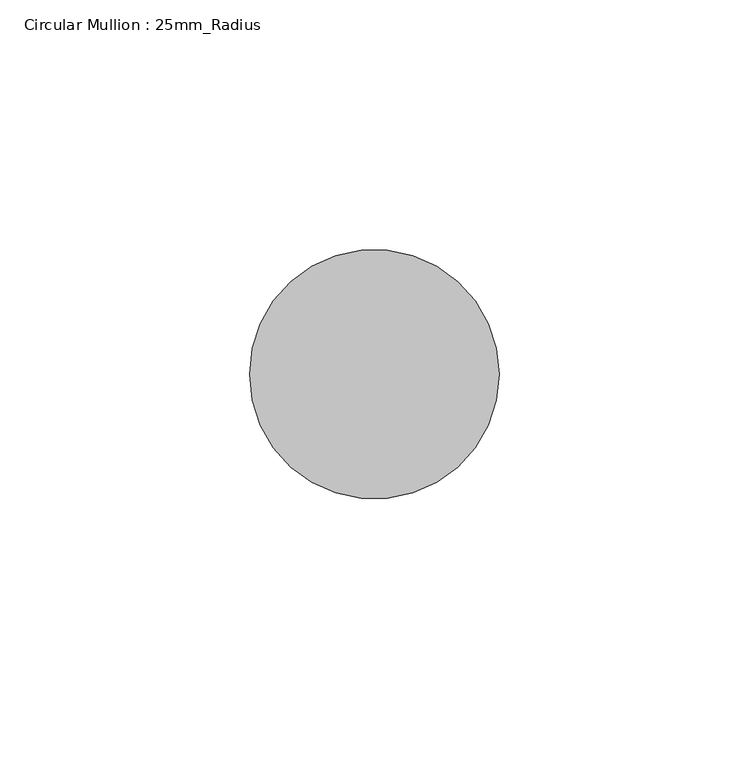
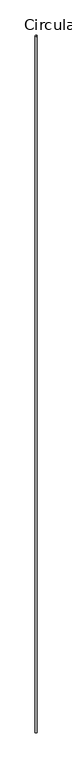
"""IFC4 building model written with IfcOpenShell, lengths in millimetres: member geometry, Circular Mullion : 25mm_Radius."""

import ifcopenshell
import ifcopenshell.guid

model = None  # the IFC model being written
_history = None  # IfcOwnerHistory: only IFC2X3 demands one
_inside = {}  # id of a spatial element -> (the spatial element, [elements in it])
_under = {}  # id of a project, library or spatial element -> (it, [spatial elements below it])
_declared = {}  # id of a project -> (the project, [libraries it declares])
_typed = {}  # id of a type object -> (the type object, [elements of that type])
_made_of = {}  # id of a material, layer set ... -> (it, [elements and type objects made of it])


def new_model(schema):
    """Start an empty IFC model of exactly this schema.

    Asked for "IFC4X3", IfcOpenShell would pick the latest addendum, in which some entities
    have other attributes; the version numbers below select the first issue.
    IFC2X3 requires an IfcOwnerHistory on every rooted entity: one is made here for all.
    """
    global model, _history
    if schema == "IFC4X3":
        model = ifcopenshell.file(schema_version=(4, 3, 0, 0))
    else:
        model = ifcopenshell.file(schema=schema)
    _inside.clear()
    _under.clear()
    _declared.clear()
    _typed.clear()
    _made_of.clear()
    _history = None
    if model.schema == "IFC2X3":
        org = make("IfcOrganization", Name="unknown")
        user = make(
            "IfcPersonAndOrganization",
            ThePerson=make("IfcPerson", FamilyName="unknown"),
            TheOrganization=org,
        )
        app = make(
            "IfcApplication",
            ApplicationDeveloper=org,
            Version="unknown",
            ApplicationFullName="unknown",
            ApplicationIdentifier="unknown",
        )
        _history = make(
            "IfcOwnerHistory",
            OwningUser=user,
            OwningApplication=app,
            ChangeAction="ADDED",
            CreationDate=0,
        )
    return model


def make(cls, **values):
    """One entity of the class cls with the attributes given. An attribute that is None is left unset."""
    return model.create_entity(
        cls, **{name: value for name, value in values.items() if value is not None}
    )


def rooted(cls, **values):
    """An entity with a GlobalId (a new one), such as an element, a storey or a relation."""
    return make(cls, GlobalId=ifcopenshell.guid.new(), OwnerHistory=_history, **values)


def si_unit(unit_type, name, prefix=None):
    """IfcSIUnit, for example si_unit("LENGTHUNIT", "METRE", prefix="MILLI")."""
    return make("IfcSIUnit", UnitType=unit_type, Prefix=prefix, Name=name)


def assignment(units):
    """IfcUnitAssignment: the units of a project."""
    return None if units is None else make("IfcUnitAssignment", Units=units)


def point(xyz):
    """IfcCartesianPoint."""
    return None if xyz is None else make("IfcCartesianPoint", Coordinates=xyz)


def direction(xyz):
    """IfcDirection."""
    return None if xyz is None else make("IfcDirection", DirectionRatios=xyz)


def frame(location, z_axis=None, x_axis=None):
    """IfcAxis2Placement3D, a coordinate frame: its origin and axes. An axis left out is left unset."""
    return make(
        "IfcAxis2Placement3D",
        Location=point(location),
        Axis=direction(z_axis),
        RefDirection=direction(x_axis),
    )


def origin():
    """The frame at (0, 0, 0) with its axes left unset."""
    return frame((0.0, 0.0, 0.0))


def place(relative_to, where):
    """IfcLocalPlacement: puts the frame where relative to a parent placement (None: the world)."""
    return make(
        "IfcLocalPlacement", PlacementRelTo=relative_to, RelativePlacement=where
    )


def context(
    kind, dimensions, precision=None, world=None, true_north=None, identifier=None
):
    """IfcGeometricRepresentationContext, for example the 3D "Model" context."""
    return make(
        "IfcGeometricRepresentationContext",
        ContextIdentifier=identifier,
        ContextType=kind,
        CoordinateSpaceDimension=dimensions,
        Precision=precision,
        WorldCoordinateSystem=world,
        TrueNorth=true_north,
    )


def project(units=None, contexts=None):
    """IfcProject with its units and contexts."""
    return rooted(
        "IfcProject",
        Name="project",
        RepresentationContexts=contexts,
        UnitsInContext=assignment(units),
    )


def spatial(cls, under=None, at=None, **own):
    """A site, building, storey or space (cls), placed at a placement, below another one or the project."""
    s = rooted(cls, ObjectPlacement=at, **own)
    if under is not None:
        _under.setdefault(under.id(), (under, []))[1].append(s)
    return s


def circle_curve(where, radius):
    """IfcCircle in the frame where."""
    return make("IfcCircle", Position=where, Radius=radius)


def ellipse_curve(where, semi_axis1, semi_axis2):
    """IfcEllipse in the frame where."""
    return make(
        "IfcEllipse", Position=where, SemiAxis1=semi_axis1, SemiAxis2=semi_axis2
    )


def shape(context_of_items, identifier, shape_type, items):
    """IfcShapeRepresentation: the items that make up one representation, for example the "Body"."""
    return make(
        "IfcShapeRepresentation",
        ContextOfItems=context_of_items,
        RepresentationIdentifier=identifier,
        RepresentationType=shape_type,
        Items=items,
    )


def source(mapping_origin, context_of_items, identifier, shape_type, items):
    """IfcRepresentationMap: a shape defined once, which mapped items show again and again."""
    return make(
        "IfcRepresentationMap",
        MappingOrigin=mapping_origin,
        MappedRepresentation=shape(context_of_items, identifier, shape_type, items),
    )


def transform(
    local_origin,
    x_axis=None,
    y_axis=None,
    z_axis=None,
    scale=None,
    scale2=None,
    scale3=None,
    uniform=True,
):
    """IfcCartesianTransformationOperator3D, or its non-uniform kind. x_axis, y_axis, z_axis: its Axis1, 2, 3."""
    if uniform:
        return make(
            "IfcCartesianTransformationOperator3D",
            Axis1=direction(x_axis),
            Axis2=direction(y_axis),
            LocalOrigin=point(local_origin),
            Scale=scale,
            Axis3=direction(z_axis),
        )
    return make(
        "IfcCartesianTransformationOperator3DnonUniform",
        Axis1=direction(x_axis),
        Axis2=direction(y_axis),
        LocalOrigin=point(local_origin),
        Scale=scale,
        Axis3=direction(z_axis),
        Scale2=scale2,
        Scale3=scale3,
    )


def mapped(mapping_source, mapping_target):
    """IfcMappedItem: shows the shape of a source again, moved by a transform."""
    return make(
        "IfcMappedItem", MappingSource=mapping_source, MappingTarget=mapping_target
    )


def made_of(thing, what):
    """Note that an element or type object is made of a material, layer set ...; save() writes the relation."""
    if what is not None:
        _made_of.setdefault(what.id(), (what, []))[1].append(thing)
    return thing


def element(
    cls,
    number,
    at=None,
    inside=None,
    cuts=None,
    type_object=None,
    material=None,
    context=None,
    identifier="Body",
    shape_type=None,
    held_by="IfcProductDefinitionShape",
    body=None,
    shapes=None,
    **own,
):
    """One element of the class cls, such as IfcWall. Its Tag is "e" and its number.

    at: its placement. inside: the storey or other place that contains it. cuts: it is an
    opening in that element (IfcRelVoidsElement). A single representation is given by context,
    identifier, shape_type and body (its items); several are given by shapes. held_by: the class
    of the entity that holds the representations. save() writes the other relations.
    """
    e = rooted(cls, Tag="e%d" % number, ObjectPlacement=at, **own)
    if body is not None:
        shapes = [shape(context, identifier, shape_type, body)]
    if shapes is not None:
        e.Representation = make(held_by, Representations=shapes)
    if inside is not None:
        _inside.setdefault(inside.id(), (inside, []))[1].append(e)
    if cuts is not None:
        rooted(
            "IfcRelVoidsElement", RelatingBuildingElement=cuts, RelatedOpeningElement=e
        )
    if type_object is not None:
        _typed.setdefault(type_object.id(), (type_object, []))[1].append(e)
    return made_of(e, material)


def aggregate(whole, parts):
    """IfcRelAggregates: a whole, such as a stair, and the parts it consists of."""
    return rooted("IfcRelAggregates", RelatingObject=whole, RelatedObjects=parts)


def save(model, path):
    """Write the relations noted so far, then the file.

    IfcRelAggregates (storeys below a building ...), IfcRelContainedInSpatialStructure (elements
    in a storey), IfcRelDefinesByType, IfcRelAssociatesMaterial and IfcRelDeclares: one each for
    every whole, place, type object, material and project.
    """
    for whole, parts in _under.values():
        aggregate(whole, parts)
    for where, things in _inside.values():
        rooted(
            "IfcRelContainedInSpatialStructure",
            RelatedElements=things,
            RelatingStructure=where,
        )
    for kind, things in _typed.values():
        rooted("IfcRelDefinesByType", RelatedObjects=things, RelatingType=kind)
    for what, things in _made_of.values():
        rooted("IfcRelAssociatesMaterial", RelatedObjects=things, RelatingMaterial=what)
    for by, libraries in _declared.values():
        rooted("IfcRelDeclares", RelatingContext=by, RelatedDefinitions=libraries)
    model.write(path)


def plane_surface(at):
    """IfcPlane: the flat surface through the origin of the frame at, square to its z axis."""
    return make("IfcPlane", Position=at)


def cylinder_surface(at, radius):
    """IfcCylindricalSurface: all points at the distance radius from the z axis of the frame at."""
    return make("IfcCylindricalSurface", Position=at, Radius=radius)


def advanced_brep(points, edges, surfaces, faces):
    """IfcAdvancedBrep: a solid bounded by faces that lie on surfaces and meet in shared edges.

    An edge is (start, end): straight between two places in points (the first is 0);
    or (start, end, curve); or (start, end, curve, False) where it runs against its curve.
    A face is (place in surfaces, loops), or (place, loops, False) where it looks against
    its surface's normal. A loop lists edges by number (the first is 1), with a minus sign
    where the edge is run from its end to its start. The first loop is the outer one.
    """
    corners = [point(p) for p in points]
    vertices = [make("IfcVertexPoint", VertexGeometry=c) for c in corners]
    made = []
    for start, end, *more in edges:
        made.append(
            make(
                "IfcEdgeCurve",
                EdgeStart=vertices[start],
                EdgeEnd=vertices[end],
                EdgeGeometry=more[0] if more else make("IfcPolyline", Points=[corners[start], corners[end]]),
                SameSense=more[1] if len(more) > 1 else True,
            )
        )
    hull = []
    for where, loops, *sense in faces:
        bounds = []
        for j, loop in enumerate(loops):
            ring = [make("IfcOrientedEdge", EdgeElement=made[abs(k) - 1], Orientation=k > 0) for k in loop]
            bounds.append(
                make(
                    "IfcFaceOuterBound" if j == 0 else "IfcFaceBound",
                    Bound=make("IfcEdgeLoop", EdgeList=ring),
                    Orientation=True,
                )
            )
        hull.append(make("IfcAdvancedFace", Bounds=bounds, FaceSurface=surfaces[where], SameSense=sense[0] if sense else True))
    return make("IfcAdvancedBrep", Outer=make("IfcClosedShell", CfsFaces=hull))


def circular_mullion_25mm_radius_a155ca32(model_context):
    return source(origin(), model_context, "Body", "AdvancedBrep", [
        advanced_brep(
        [(0.0, 0.0, -23042.2325658), (-50.0, 0.0, -23042.2325658), (-50.0, 0.0, -30.3767388), (0.0, 0.0, 0.0)],
        [
            (0, 1, circle_curve(frame((-25.0, 0.0, -23042.2325658), z_axis=(0.0, 0.0, -1.0), x_axis=(1.0, 0.0, 0.0)), 25.0)),
            (1, 0, circle_curve(frame((-25.0, 0.0, -23042.2325658), z_axis=(0.0, 0.0, -1.0), x_axis=(1.0, 0.0, 0.0)), 25.0)),
            (2, 3, ellipse_curve(frame((-25.0, 0.0, -15.1883694), z_axis=(0.5192228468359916, 0.0, -0.8546388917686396), x_axis=(0.8546388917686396, 0.0, 0.5192228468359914)), 29.2521207, 25.0)),
            (3, 0),
            (1, 2),
            (3, 2, ellipse_curve(frame((-25.0, 0.0, -15.1883694), z_axis=(0.5192228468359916, 0.0, -0.8546388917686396), x_axis=(0.8546388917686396, 0.0, 0.5192228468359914)), 29.2521207, 25.0)),
        ],
        [
            plane_surface(frame((0.0, -50.0, -23042.2325658), z_axis=(0.0, 0.0, -1.0), x_axis=(-1.0, 0.0, 0.0))),
            cylinder_surface(frame((-25.0, 0.0, 0.0), z_axis=(0.0, 0.0, 1.0), x_axis=(1.0, 0.0, 0.0)), 25.0),
            plane_surface(frame((0.0, -304.8, 0.0), z_axis=(-0.5192228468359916, 0.0, 0.8546388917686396), x_axis=(-0.8546388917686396, 0.0, -0.5192228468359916))),
        ],
        [
            (0, [[1, 2]]),
            (1, [[3, 4, -2, 5]]),
            (1, [[6, -5, -1, -4]]),
            (2, [[-3, -6]]),
        ],
    ),
    ])


if __name__ == "__main__":
    model = new_model("IFC4")
    model_context = context("Model", 3, world=origin())
    ifc_project = project(units=[si_unit("LENGTHUNIT", "METRE", prefix="MILLI")], contexts=[model_context])
    site = spatial("IfcSite", under=ifc_project)
    building = spatial("IfcBuilding", under=site)
    placement = place(None, origin())
    circular_mullion_25mm_radius_shape = circular_mullion_25mm_radius_a155ca32(model_context)
    element("IfcMember", 1, ObjectType="Circular Mullion : 25mm_Radius", at=placement, inside=building, context=model_context, shape_type="MappedRepresentation", body=[
        mapped(circular_mullion_25mm_radius_shape, transform((0.0, 0.0, 0.0), x_axis=(1.0, 0.0, 0.0), y_axis=(0.0, 1.0, 0.0), z_axis=(0.0, 0.0, 1.0))),
    ])
    save(model, "model.ifc")
